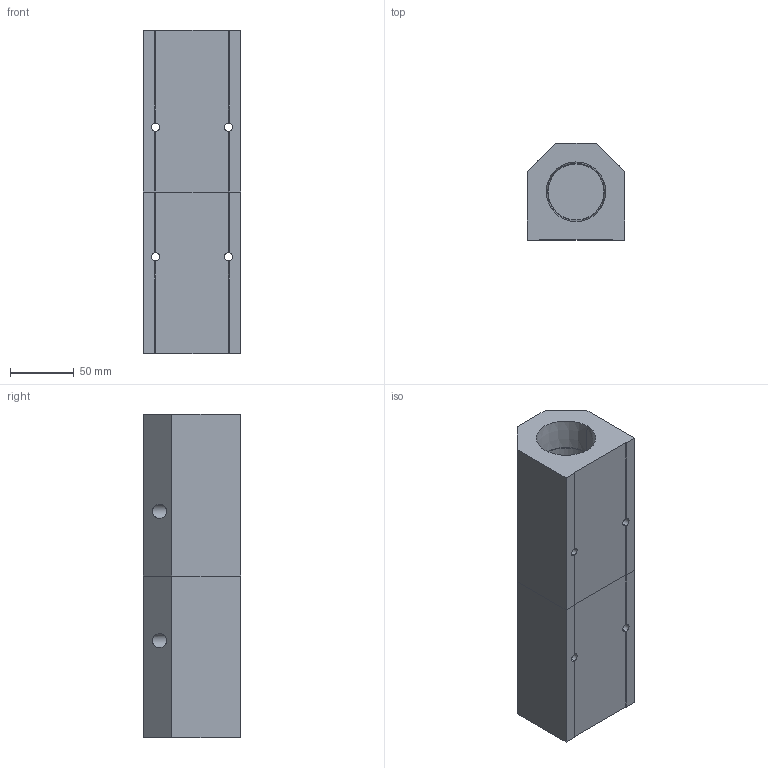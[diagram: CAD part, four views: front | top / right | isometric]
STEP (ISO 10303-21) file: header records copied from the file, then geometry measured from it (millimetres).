
FILE_DESCRIPTION (( 'STEP AP214' ), '1' );
FILE_NAME ('ALM4C-N4N24-254RB.step', '2022-02-07T07:52:07', ( '' ), ( '' ), 'SwSTEP 2.0', 'SolidWorks 2020', '' );
FILE_SCHEMA (( 'AUTOMOTIVE_DESIGN' ));
Length unit declared in the file: millimetre
Products named in the file (1): ALM4C-N4N24-254RB
Bounding box: 76.2 x 76.2 x 254 mm (x, y, z)
Volume: 933804.4 mm3; surface area: 133990.3 mm2
Topology: 2 solids, 2 shells, 330 faces, 865 edges, 574 vertices
Faces by surface type: plane 250, bspline 48, cylinder 20, cone 12
Entity records: 16764 total; most frequent: CARTESIAN_POINT 5850, ORIENTED_EDGE 1730, DIRECTION 1359, EDGE_CURVE 865, LINE 697, VECTOR 697, VERTEX_POINT 574, EDGE_LOOP 381
